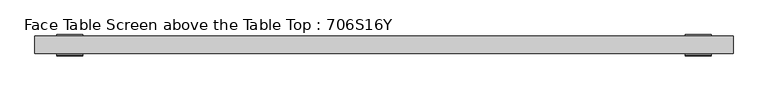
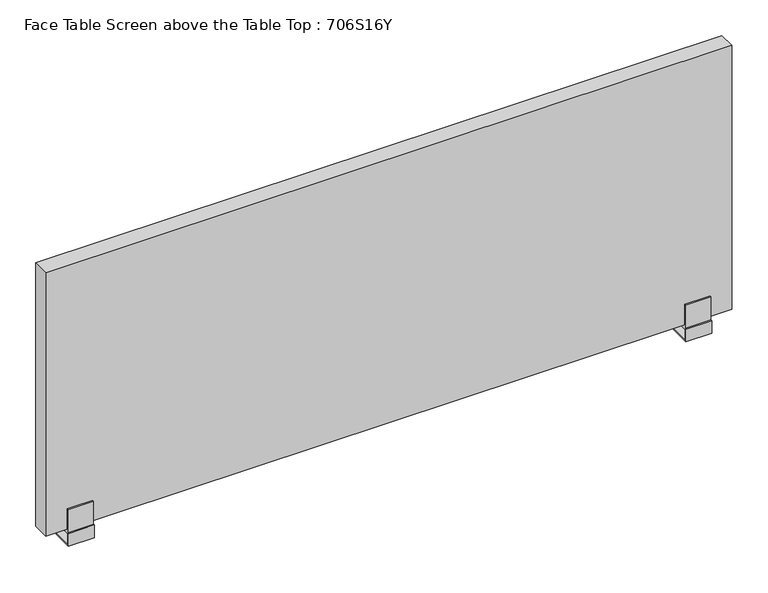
"""IFC4 building model written with IfcOpenShell, lengths in millimetres: furniture geometry, Face Table Screen above the Table Top : 706S16Y."""

from ifc_helpers import new_model, si_unit, frame, origin, place, context, project, spatial, polyline, circle_curve, outline, extrude, source, transform, mapped, element, save
from ifc_brep_helpers import plane_surface, cylinder_surface, advanced_brep


def face_table_screen_above_the_table_top_706s16y_538e64ef(model_context):
    return source(origin(), model_context, "Body", "SolidModel", [
        advanced_brep(
        [(-725.0, 0.0, -39.4406633), (-715.0, 0.0, -39.4406633), (-715.0, 0.0, -28.0), (-725.0, 0.0, -28.0), (-750.0, 23.0, -25.0), (-750.0, -23.0, -25.0), (-690.0, -23.0, -25.0), (-690.0, 23.0, -25.0), (-750.0, -23.0, 0.0), (-750.0, 23.0, -28.0), (-750.0, -26.0, -28.0), (-750.0, -26.0, 3.0), (-750.0, -23.0, 3.0), (-750.0, -23.0, 60.0), (-750.0, -20.0, 60.0), (-750.0, -20.0, 10.0), (-750.0, 20.0, 10.0), (-750.0, 20.0, 60.0), (-750.0, 23.0, 60.0), (-750.0, 23.0, 0.0), (-690.0, -23.0, 0.0), (-690.0, 23.0, 0.0), (-690.0, 23.0, 60.0), (-690.0, 20.0, 60.0), (-690.0, 20.0, 10.0), (-690.0, -20.0, 10.0), (-690.0, -20.0, 60.0), (-690.0, -23.0, 60.0), (-690.0, -23.0, 3.0), (-690.0, -26.0, 3.0), (-690.0, -26.0, -28.0), (-690.0, 23.0, -28.0)],
        [
            (0, 1, circle_curve(frame((-720.0, 0.0, -39.4406633), z_axis=(0.0, 0.0, -1.0), x_axis=(1.0, 0.0, 0.0)), 5.0)),
            (1, 0, circle_curve(frame((-720.0, 0.0, -39.4406633), z_axis=(0.0, 0.0, -1.0), x_axis=(1.0, 0.0, 0.0)), 5.0)),
            (1, 2),
            (2, 3, circle_curve(frame((-720.0, 0.0, -28.0), z_axis=(0.0, 0.0, -1.0), x_axis=(1.0, 0.0, 0.0)), 5.0)),
            (3, 0),
            (3, 2, circle_curve(frame((-720.0, 0.0, -28.0), z_axis=(0.0, 0.0, -1.0), x_axis=(1.0, 0.0, 0.0)), 5.0)),
            (4, 5),
            (5, 6),
            (6, 7),
            (7, 4),
            (8, 5),
            (4, 9),
            (9, 10),
            (10, 11),
            (11, 12),
            (12, 13),
            (13, 14),
            (14, 15),
            (15, 16),
            (16, 17),
            (17, 18),
            (18, 19),
            (19, 8),
            (20, 21),
            (21, 22),
            (22, 23),
            (23, 24),
            (24, 25),
            (25, 26),
            (26, 27),
            (27, 28),
            (28, 29),
            (29, 30),
            (30, 31),
            (31, 7),
            (6, 20),
            (19, 21),
            (20, 8),
            (18, 22),
            (17, 23),
            (16, 24),
            (15, 25),
            (14, 26),
            (13, 27),
            (12, 28),
            (11, 29),
            (10, 30),
            (9, 31),
        ],
        [
            plane_surface(frame((-715.0, 0.0, -39.4406633), z_axis=(0.0, 0.0, -1.0), x_axis=(0.0, -1.0, 0.0))),
            cylinder_surface(frame((-720.0, 0.0, -39.4406633), z_axis=(0.0, 0.0, 1.0), x_axis=(1.0, 0.0, 0.0)), 5.0),
            plane_surface(frame((-715.0, 0.0, -25.0), z_axis=(0.0, 0.0, 1.0), x_axis=(0.0, 1.0, 0.0))),
            plane_surface(frame((-750.0, 23.0, 0.0), z_axis=(-1.0, 0.0, 0.0), x_axis=(0.0, -1.0, 0.0))),
            plane_surface(frame((-690.0, 23.0, 0.0), z_axis=(1.0, 0.0, 0.0), x_axis=(0.0, 1.0, 0.0))),
            plane_surface(frame((-690.0, -23.0, 0.0), z_axis=(0.0, 0.0, -1.0), x_axis=(-1.0, 0.0, 0.0))),
            plane_surface(frame((-690.0, 23.0, 0.0), z_axis=(0.0, 1.0, 0.0), x_axis=(-1.0, 0.0, 0.0))),
            plane_surface(frame((-690.0, 23.0, 60.0), z_axis=(0.0, 0.0, 1.0), x_axis=(-1.0, 0.0, 0.0))),
            plane_surface(frame((-690.0, 20.0, 60.0), z_axis=(0.0, -1.0, 0.0), x_axis=(-1.0, 0.0, 0.0))),
            plane_surface(frame((-690.0, 20.0, 10.0), z_axis=(0.0, 0.0, 1.0), x_axis=(-1.0, 0.0, 0.0))),
            plane_surface(frame((-690.0, -20.0, 10.0), z_axis=(0.0, 1.0, 0.0), x_axis=(-1.0, 0.0, 0.0))),
            plane_surface(frame((-690.0, -20.0, 60.0), z_axis=(0.0, 0.0, 1.0), x_axis=(-1.0, 0.0, 0.0))),
            plane_surface(frame((-690.0, -23.0, 60.0), z_axis=(0.0, -1.0, 0.0), x_axis=(-1.0, 0.0, 0.0))),
            plane_surface(frame((-690.0, -23.0, 3.0), z_axis=(0.0, 0.0, 1.0), x_axis=(-1.0, 0.0, 0.0))),
            plane_surface(frame((-690.0, -26.0, 3.0), z_axis=(0.0, -1.0, 0.0), x_axis=(-1.0, 0.0, 0.0))),
            plane_surface(frame((-690.0, -26.0, -28.0), z_axis=(0.0, 0.0, -1.0), x_axis=(-1.0, 0.0, 0.0))),
            plane_surface(frame((-690.0, 23.0, -28.0), z_axis=(0.0, 1.0, 0.0), x_axis=(-1.0, 0.0, 0.0))),
            plane_surface(frame((-690.0, -23.0, -25.0), z_axis=(0.0, 1.0, 0.0), x_axis=(-1.0, 0.0, 0.0))),
        ],
        [
            (0, [[1, 2]]),
            (1, [[-2, 3, 4, 5]]),
            (1, [[-1, -5, 6, -3]]),
            (2, [[7, 8, 9, 10]]),
            (3, [[11, -7, 12, 13, 14, 15, 16, 17, 18, 19, 20, 21, 22, 23]]),
            (4, [[24, 25, 26, 27, 28, 29, 30, 31, 32, 33, 34, 35, -9, 36]]),
            (5, [[-23, 37, -24, 38]]),
            (6, [[-22, 39, -25, -37]]),
            (7, [[-21, 40, -26, -39]]),
            (8, [[-20, 41, -27, -40]]),
            (9, [[-19, 42, -28, -41]]),
            (10, [[-18, 43, -29, -42]]),
            (11, [[-17, 44, -30, -43]]),
            (12, [[-16, 45, -31, -44]]),
            (13, [[-15, 46, -32, -45]]),
            (14, [[-14, 47, -33, -46]]),
            (15, [[-13, 48, -34, -47], [-4, -6]]),
            (16, [[-12, -10, -35, -48]]),
            (17, [[-11, -38, -36, -8]]),
        ],
    ),
        advanced_brep(
        [(715.0, 0.0, -39.4406633), (725.0, 0.0, -39.4406633), (725.0, 0.0, -28.0), (715.0, 0.0, -28.0), (690.0, 23.0, -25.0), (690.0, -23.0, -25.0), (750.0, -23.0, -25.0), (750.0, 23.0, -25.0), (690.0, -23.0, 0.0), (690.0, 23.0, -28.0), (690.0, -26.0, -28.0), (690.0, -26.0, 3.0), (690.0, -23.0, 3.0), (690.0, -23.0, 60.0), (690.0, -20.0, 60.0), (690.0, -20.0, 10.0), (690.0, 20.0, 10.0), (690.0, 20.0, 60.0), (690.0, 23.0, 60.0), (690.0, 23.0, 0.0), (750.0, -23.0, 0.0), (750.0, 23.0, 0.0), (750.0, 23.0, 60.0), (750.0, 20.0, 60.0), (750.0, 20.0, 10.0), (750.0, -20.0, 10.0), (750.0, -20.0, 60.0), (750.0, -23.0, 60.0), (750.0, -23.0, 3.0), (750.0, -26.0, 3.0), (750.0, -26.0, -28.0), (750.0, 23.0, -28.0)],
        [
            (0, 1, circle_curve(frame((720.0, 0.0, -39.4406633), z_axis=(0.0, 0.0, -1.0), x_axis=(1.0, 0.0, 0.0)), 5.0)),
            (1, 0, circle_curve(frame((720.0, 0.0, -39.4406633), z_axis=(0.0, 0.0, -1.0), x_axis=(1.0, 0.0, 0.0)), 5.0)),
            (1, 2),
            (2, 3, circle_curve(frame((720.0, 0.0, -28.0), z_axis=(0.0, 0.0, -1.0), x_axis=(1.0, 0.0, 0.0)), 5.0)),
            (3, 0),
            (3, 2, circle_curve(frame((720.0, 0.0, -28.0), z_axis=(0.0, 0.0, -1.0), x_axis=(1.0, 0.0, 0.0)), 5.0)),
            (4, 5),
            (5, 6),
            (6, 7),
            (7, 4),
            (8, 5),
            (4, 9),
            (9, 10),
            (10, 11),
            (11, 12),
            (12, 13),
            (13, 14),
            (14, 15),
            (15, 16),
            (16, 17),
            (17, 18),
            (18, 19),
            (19, 8),
            (20, 21),
            (21, 22),
            (22, 23),
            (23, 24),
            (24, 25),
            (25, 26),
            (26, 27),
            (27, 28),
            (28, 29),
            (29, 30),
            (30, 31),
            (31, 7),
            (6, 20),
            (19, 21),
            (20, 8),
            (18, 22),
            (17, 23),
            (16, 24),
            (15, 25),
            (14, 26),
            (13, 27),
            (12, 28),
            (11, 29),
            (10, 30),
            (9, 31),
        ],
        [
            plane_surface(frame((725.0, 0.0, -39.4406633), z_axis=(0.0, 0.0, -1.0), x_axis=(0.0, -1.0, 0.0))),
            cylinder_surface(frame((720.0, 0.0, -39.4406633), z_axis=(0.0, 0.0, 1.0), x_axis=(1.0, 0.0, 0.0)), 5.0),
            plane_surface(frame((725.0, 0.0, -25.0), z_axis=(0.0, 0.0, 1.0), x_axis=(0.0, 1.0, 0.0))),
            plane_surface(frame((690.0, 23.0, 0.0), z_axis=(-1.0, 0.0, 0.0), x_axis=(0.0, -1.0, 0.0))),
            plane_surface(frame((750.0, 23.0, 0.0), z_axis=(1.0, 0.0, 0.0), x_axis=(0.0, 1.0, 0.0))),
            plane_surface(frame((750.0, -23.0, 0.0), z_axis=(0.0, 0.0, -1.0), x_axis=(-1.0, 0.0, 0.0))),
            plane_surface(frame((750.0, 23.0, 0.0), z_axis=(0.0, 1.0, 0.0), x_axis=(-1.0, 0.0, 0.0))),
            plane_surface(frame((750.0, 23.0, 60.0), z_axis=(0.0, 0.0, 1.0), x_axis=(-1.0, 0.0, 0.0))),
            plane_surface(frame((750.0, 20.0, 60.0), z_axis=(0.0, -1.0, 0.0), x_axis=(-1.0, 0.0, 0.0))),
            plane_surface(frame((750.0, 20.0, 10.0), z_axis=(0.0, 0.0, 1.0), x_axis=(-1.0, 0.0, 0.0))),
            plane_surface(frame((750.0, -20.0, 10.0), z_axis=(0.0, 1.0, 0.0), x_axis=(-1.0, 0.0, 0.0))),
            plane_surface(frame((750.0, -20.0, 60.0), z_axis=(0.0, 0.0, 1.0), x_axis=(-1.0, 0.0, 0.0))),
            plane_surface(frame((750.0, -23.0, 60.0), z_axis=(0.0, -1.0, 0.0), x_axis=(-1.0, 0.0, 0.0))),
            plane_surface(frame((750.0, -23.0, 3.0), z_axis=(0.0, 0.0, 1.0), x_axis=(-1.0, 0.0, 0.0))),
            plane_surface(frame((750.0, -26.0, 3.0), z_axis=(0.0, -1.0, 0.0), x_axis=(-1.0, 0.0, 0.0))),
            plane_surface(frame((750.0, -26.0, -28.0), z_axis=(0.0, 0.0, -1.0), x_axis=(-1.0, 0.0, 0.0))),
            plane_surface(frame((750.0, 23.0, -28.0), z_axis=(0.0, 1.0, 0.0), x_axis=(-1.0, 0.0, 0.0))),
            plane_surface(frame((750.0, -23.0, -25.0), z_axis=(0.0, 1.0, 0.0), x_axis=(-1.0, 0.0, 0.0))),
        ],
        [
            (0, [[1, 2]]),
            (1, [[-2, 3, 4, 5]]),
            (1, [[-1, -5, 6, -3]]),
            (2, [[7, 8, 9, 10]]),
            (3, [[11, -7, 12, 13, 14, 15, 16, 17, 18, 19, 20, 21, 22, 23]]),
            (4, [[24, 25, 26, 27, 28, 29, 30, 31, 32, 33, 34, 35, -9, 36]]),
            (5, [[-23, 37, -24, 38]]),
            (6, [[-22, 39, -25, -37]]),
            (7, [[-21, 40, -26, -39]]),
            (8, [[-20, 41, -27, -40]]),
            (9, [[-19, 42, -28, -41]]),
            (10, [[-18, 43, -29, -42]]),
            (11, [[-17, 44, -30, -43]]),
            (12, [[-16, 45, -31, -44]]),
            (13, [[-15, 46, -32, -45]]),
            (14, [[-14, 47, -33, -46]]),
            (15, [[-13, 48, -34, -47], [-4, -6]]),
            (16, [[-12, -10, -35, -48]]),
            (17, [[-11, -38, -36, -8]]),
        ],
    ),
        extrude(outline(polyline([(800.0, -20.0), (-800.0, -20.0), (-800.0, 20.0), (800.0, 20.0), (800.0, -20.0)])), frame((0.0, 0.0, 10.0), z_axis=(0.0, 0.0, 1.0), x_axis=(1.0, 0.0, 0.0)), (0.0, 0.0, 1.0), 650.0),
    ])


if __name__ == "__main__":
    model = new_model("IFC4")
    model_context = context("Model", 3, world=origin())
    ifc_project = project(units=[si_unit("LENGTHUNIT", "METRE", prefix="MILLI")], contexts=[model_context])
    site = spatial("IfcSite", under=ifc_project)
    building = spatial("IfcBuilding", under=site)
    placement = place(None, origin())
    face_table_screen_above_the_table_top_706s16y_shape = face_table_screen_above_the_table_top_706s16y_538e64ef(model_context)
    element("IfcFurniture", 1, ObjectType="Face Table Screen above the Table Top : 706S16Y", at=placement, inside=building, context=model_context, shape_type="MappedRepresentation", body=[
        mapped(face_table_screen_above_the_table_top_706s16y_shape, transform((0.0, 0.0, 0.0), x_axis=(1.0, 0.0, 0.0), y_axis=(0.0, 1.0, 0.0), z_axis=(0.0, 0.0, 1.0))),
    ])
    save(model, "model.ifc")
